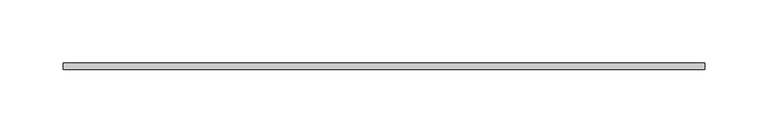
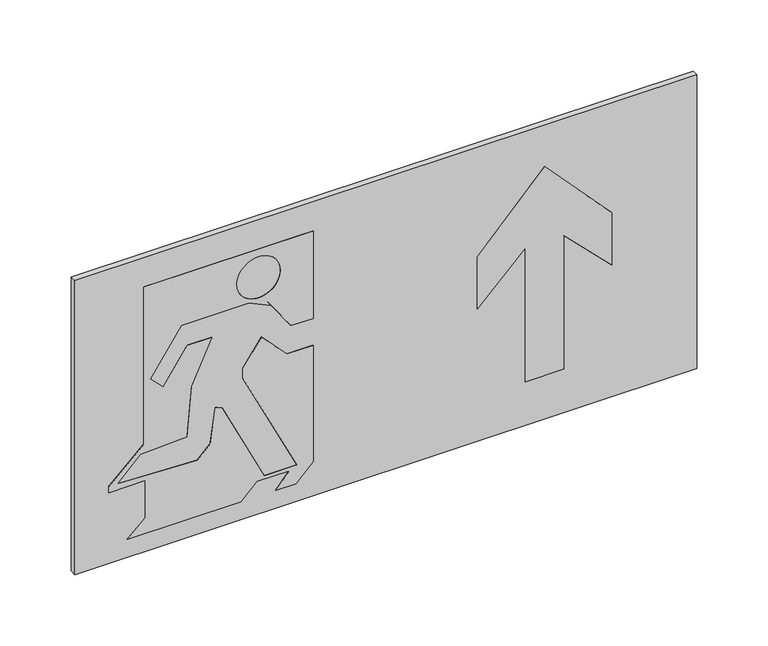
"""IFC4 building model written with IfcOpenShell, lengths in millimetres: flow terminal geometry, PLACA DE SINALIZAÇÃO-S3 : Distancia maxima visibilidade - 10 metros."""

from ifc_helpers import new_model, si_unit, point, frame, frame_2d, origin, place, context, project, spatial, polyline, circle_curve, trimmed, segment, composite_curve, outline, extrude, source, transform, mapped, element, save


def flow_terminal_384159a2(model_context):
    return source(origin(), model_context, "Body", "SweptSolid", [
        extrude(outline(polyline([(227.5181482, -196.8742696), (92.5181482, -196.8742696), (65.9369645, -225.3895957), (60.6779692, -225.3895957), (60.6779692, -195.3895957), (28.597425, -195.3895957), (15.2148129, -210.2524922), (15.2148129, -117.8306236), (28.3250785, -104.7203579), (28.3250785, -78.5757912), (15.2148129, -89.5766102), (15.2148129, -73.2629536), (29.3569485, -59.1208179), (129.3569485, -59.1208179), (129.3569485, -80.5419215), (151.2975595, -101.0018723), (129.5264142, -116.2461924), (120.894616, -116.2461924), (31.0152114, -72.4090777), (31.0152114, -98.8449759), (101.133451, -133.0439264), (103.7380726, -138.6295555), (74.0300305, -142.8047485), (63.4234288, -153.4113502), (65.6918961, -218.371754), (84.4683967, -199.5952534), (86.4413826, -161.948438), (128.7610956, -158.2459429), (165.0134071, -141.3412125), (165.0134071, -161.3412125), (135.997092, -180.9129641), (146.6036937, -191.5195658), (183.9103845, -166.3558851), (183.9103845, -111.3558851), (175.4580193, -93.2297294), (152.5181482, -77.1670587), (152.5181482, -59.1208179), (227.5181482, -59.1208179), (227.5181482, -196.8742696)]), holes=[composite_curve([segment(trimmed(circle_curve(frame_2d((203.3084844, -103.3946644)), 17.7066682), [point((203.3084844, -85.6879962))], [point((203.3084844, -121.1013325))], True, "CARTESIAN"), True, "CONTINUOUS"), segment(trimmed(circle_curve(frame_2d((203.3084844, -103.3946644)), 17.7066682), [point((203.3084844, -121.1013325))], [point((203.3084844, -85.6879962))], True, "CARTESIAN"), True, "CONTINUOUS")], self_intersect=False)]), frame((0.0, -5.0, 0.0), z_axis=(0.0, 1.0, 0.0), x_axis=(0.0, 0.0, 1.0)), (0.0, 0.0, 1.0), 5.0),
        extrude(outline(polyline([(37.4359791, 113.4586498), (37.4359791, 144.7966415), (152.4359791, 144.7966415), (113.5451061, 183.6875145), (158.5451061, 183.6875145), (217.0534022, 129.1276457), (158.5451061, 74.5677769), (113.5451061, 74.5677769), (152.4359791, 113.4586498), (37.4359791, 113.4586498)])), frame((0.0, -5.0, 0.0), z_axis=(0.0, 1.0, 0.0), x_axis=(0.0, 0.0, 1.0)), (0.0, 0.0, 1.0), 5.0),
        extrude(outline(polyline([(0.0, 253.0), (253.0, 253.0), (253.0, -253.0), (0.0, -253.0), (0.0, 253.0)]), holes=[polyline([(152.4359791, 113.4586498), (113.5451061, 74.5677769), (158.5451061, 74.5677769), (217.0534022, 129.1276457), (158.5451061, 183.6875145), (113.5451061, 183.6875145), (152.4359791, 144.7966415), (37.4359791, 144.7966415), (37.4359791, 113.4586498), (152.4359791, 113.4586498)]), polyline([(227.5181482, -196.8742696), (227.5181482, -59.1208179), (152.5181482, -59.1208179), (152.5181482, -77.1670587), (175.4580193, -93.2297294), (183.9103845, -111.3558851), (183.9103845, -166.3558851), (146.6036937, -191.5195658), (135.997092, -180.9129641), (165.0134071, -161.3412125), (165.0134071, -141.3412125), (128.7610956, -158.2459429), (86.4413826, -161.948438), (84.4683967, -199.5952534), (65.6918961, -218.371754), (63.4234288, -153.4113502), (74.0300305, -142.8047485), (103.7380726, -138.6295555), (101.133451, -133.0439264), (31.0152114, -98.8449759), (31.0152114, -72.4090777), (120.894616, -116.2461924), (129.5264142, -116.2461924), (151.2975595, -101.0018723), (129.3569485, -80.5419215), (129.3569485, -59.1208179), (29.3569485, -59.1208179), (15.2148129, -73.2629536), (15.2148129, -89.5766102), (28.3250785, -78.5757912), (28.3250785, -104.7203579), (15.2148129, -117.8306236), (15.2148129, -210.2524922), (28.597425, -195.3895957), (60.6779692, -195.3895957), (60.6779692, -225.3895957), (65.9369645, -225.3895957), (92.5181482, -196.8742696), (227.5181482, -196.8742696)])]), frame((0.0, -5.0, 0.0), z_axis=(0.0, 1.0, 0.0), x_axis=(0.0, 0.0, 1.0)), (0.0, 0.0, 1.0), 5.0),
        extrude(outline(composite_curve([segment(trimmed(circle_curve(frame_2d((203.3084844, -103.3946644)), 17.7066682), [point((203.3084844, -121.1013325))], [point((203.3084844, -85.6879962))], False, "CARTESIAN"), True, "CONTINUOUS"), segment(trimmed(circle_curve(frame_2d((203.3084844, -103.3946644)), 17.7066682), [point((203.3084844, -85.6879962))], [point((203.3084844, -121.1013325))], False, "CARTESIAN"), True, "CONTINUOUS")], self_intersect=False)), frame((0.0, -5.0, 0.0), z_axis=(0.0, 1.0, 0.0), x_axis=(0.0, 0.0, 1.0)), (0.0, 0.0, 1.0), 5.0),
    ])


if __name__ == "__main__":
    model = new_model("IFC4")
    model_context = context("Model", 3, world=origin())
    ifc_project = project(units=[si_unit("LENGTHUNIT", "METRE", prefix="MILLI")], contexts=[model_context])
    site = spatial("IfcSite", under=ifc_project)
    building = spatial("IfcBuilding", under=site)
    placement = place(None, origin())
    flow_terminal_shape = flow_terminal_384159a2(model_context)
    element("IfcFlowTerminal", 1, ObjectType="PLACA DE SINALIZAÇÃO-S3 : Distancia maxima visibilidade - 10 metros", at=placement, inside=building, context=model_context, shape_type="MappedRepresentation", body=[
        mapped(flow_terminal_shape, transform((0.0, 0.0, 0.0), x_axis=(1.0, 0.0, 0.0), y_axis=(0.0, 1.0, 0.0), z_axis=(0.0, 0.0, 1.0))),
    ])
    save(model, "model.ifc")
